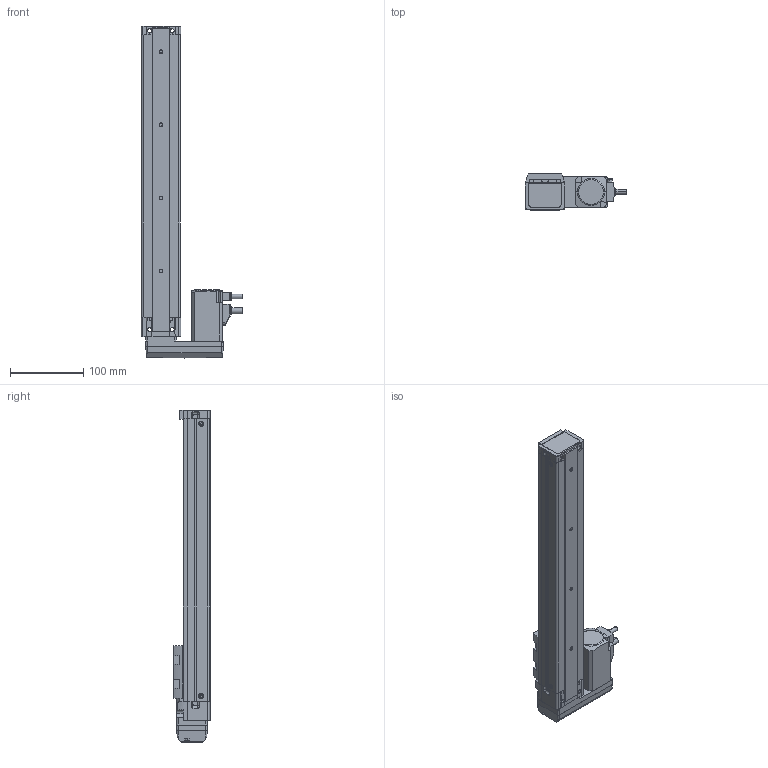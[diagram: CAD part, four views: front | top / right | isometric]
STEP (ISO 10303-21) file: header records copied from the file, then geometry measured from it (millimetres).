
FILE_DESCRIPTION (( 'STEP AP203' ), '1' );
FILE_NAME ('EZSM3LD030AZAK.step', '2015-06-30T13:02:25', ( 'om' ), ( 'Hewlett-Packard Company' ), 'SwSTEP 2.0', 'SolidWorks 2014', '' );
FILE_SCHEMA (( 'CONFIG_CONTROL_DESIGN' ));
Length unit declared in the file: millimetre
Products named in the file (4): EZSM3LD030AZAK_Motor; EZSM3LD030AZAK_BASE; EZSM3LD030AZAK_Table; EZSM3LD030AZAK
Assembly tree (3 placements, depth 2):
  EZSM3LD030AZAK
    EZSM3LD030AZAK_Motor
    EZSM3LD030AZAK_BASE
    EZSM3LD030AZAK_Table
Bounding box: 139 x 50 x 453.9 mm (x, y, z)
Volume: 1089778.4 mm3; surface area: 141516.6 mm2
Topology: 3 solids, 5 shells, 892 faces, 2242 edges, 1437 vertices
Faces by surface type: plane 581, cylinder 235, cone 54, torus 19, sphere 2, bspline 1
Entity records: 27256 total; most frequent: CARTESIAN_POINT 5201, DIRECTION 4487, ORIENTED_EDGE 4468, EDGE_CURVE 2234, VECTOR 1637, LINE 1637, VERTEX_POINT 1437, AXIS2_PLACEMENT_3D 1425
